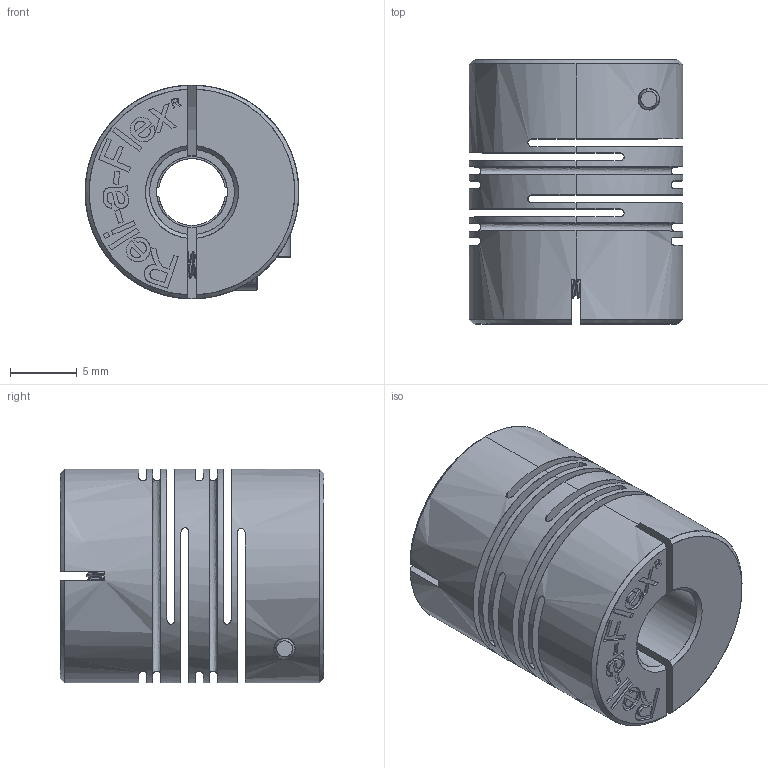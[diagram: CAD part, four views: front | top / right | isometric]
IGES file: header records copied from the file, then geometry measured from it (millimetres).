
Start section: Comment
Global section: file name: RCSA16C-0.250-5.igs; native system:  By UGS Corp.; preprocessor: XPlus GENERIC/IGES 3.0; author: Author; organization: Title; date: 20070323.104219; units: inch
Bounding box: 16 x 19.75 x 16 mm (x, y, z)
Surface area: 4343.6 mm2 (no closed solid volume)
Topology: 0 solids, 0 shells, 349 faces, 2450 edges, 2446 vertices
Faces by surface type: bspline 349
